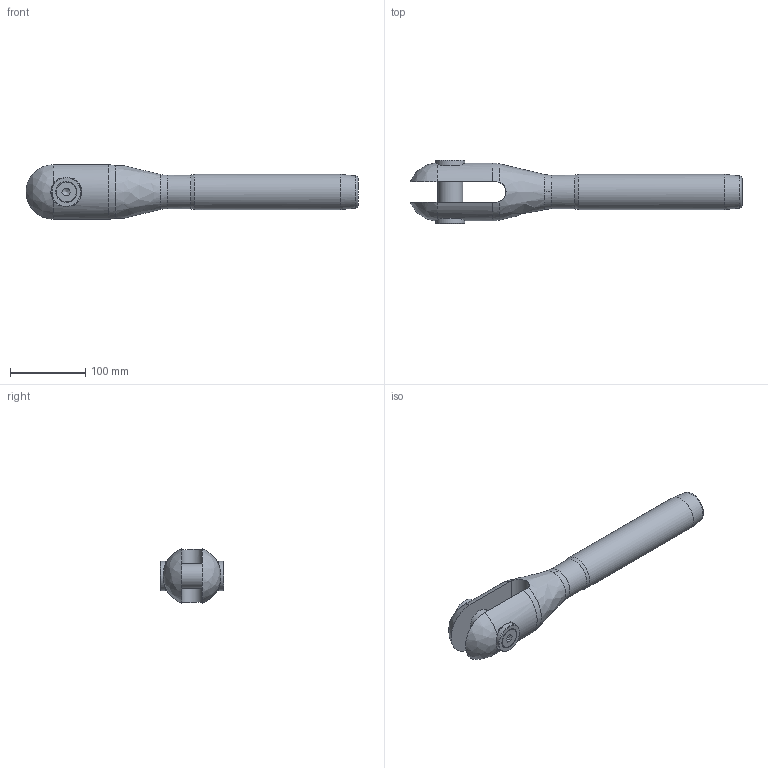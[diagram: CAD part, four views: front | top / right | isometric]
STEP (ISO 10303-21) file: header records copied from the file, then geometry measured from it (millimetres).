
FILE_DESCRIPTION(/* description */ (''),/* implementation_level */ '2;1');
FILE_NAME(/* name */ 'MAC 24_42CrMo4',/* time_stamp */ '2023-05-23T16:55:18+02:00',/* author */ (''),/* organization */ (''),/* preprocessor_version */ 'ST-DEVELOPER v16.5',/* originating_system */ 'Rhino 7.22',/* authorisation */ '');
FILE_SCHEMA (('CONFIG_CONTROL_DESIGN'));
Length unit declared in the file: millimetre
Products named in the file (1): Document
Bounding box: 441.05 x 84.59 x 72.11 mm (x, y, z)
Volume: 909327.5 mm3; surface area: 113067 mm2
Topology: 6 solids, 6 shells, 75 faces, 210 edges, 145 vertices
Faces by surface type: plane 29, bspline 24, cylinder 22
Full cylindrical faces by diameter (mm): 11.835 x2, 14 x2, 14.5 x2, 26.52 x2, 33 x1, 35 x2, 39 x2, 44.5 x1, 46.8 x1
Entity records: 3138 total; most frequent: CARTESIAN_POINT 1791, ORIENTED_EDGE 412, EDGE_CURVE 206, VERTEX_POINT 145, EDGE_LOOP 85, B_SPLINE_CURVE_WITH_KNOTS 84, ADVANCED_FACE 75, FACE_OUTER_BOUND 75
